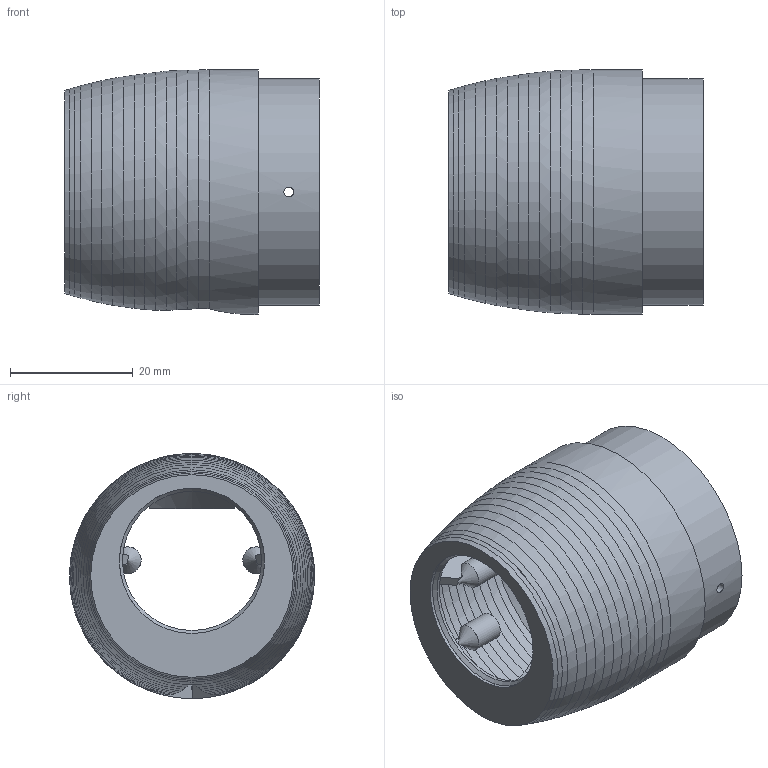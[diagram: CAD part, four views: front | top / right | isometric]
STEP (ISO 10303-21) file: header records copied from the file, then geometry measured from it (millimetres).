
FILE_DESCRIPTION(('Open CASCADE Model'),'2;1');
FILE_NAME('Open CASCADE Shape Model','2026-10-04T21:26:20',('Author'),( 'Open CASCADE'),'Open CASCADE STEP processor 7.9','Open CASCADE 7.9' ,'Unknown');
FILE_SCHEMA(('AUTOMOTIVE_DESIGN { 1 0 10303 214 1 1 1 1 }'));
Length unit declared in the file: millimetre
Products named in the file (1): Open CASCADE STEP translator 7.9 9
Bounding box: 41.6 x 40 x 40 mm (x, y, z)
Volume: 10122.8 mm3; surface area: 12390.6 mm2
Topology: 1 solids, 1 shells, 214 faces, 593 edges, 384 vertices
Faces by surface type: plane 104, cone 53, bspline 32, cylinder 25
Full cylindrical faces by diameter (mm): 1.6 x6, 22.717 x1, 23.724 x1, 33.8 x1, 37 x1, 40 x1
Entity records: 16557 total; most frequent: CARTESIAN_POINT 5895, DIRECTION 1700, ORIENTED_EDGE 1178, PCURVE 1178, DEFINITIONAL_REPRESENTATION 1178, LINE 817, VECTOR 817, EDGE_CURVE 589
